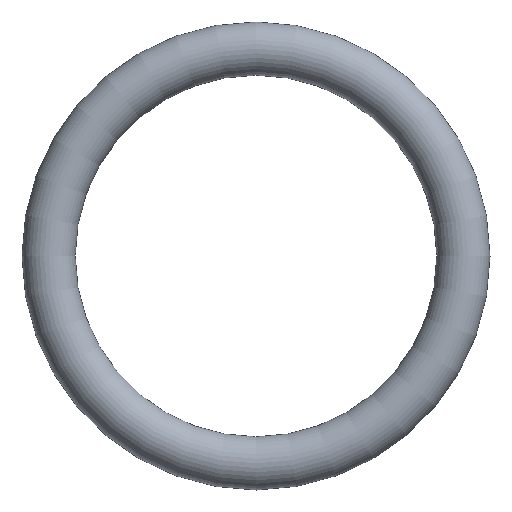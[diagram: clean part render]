
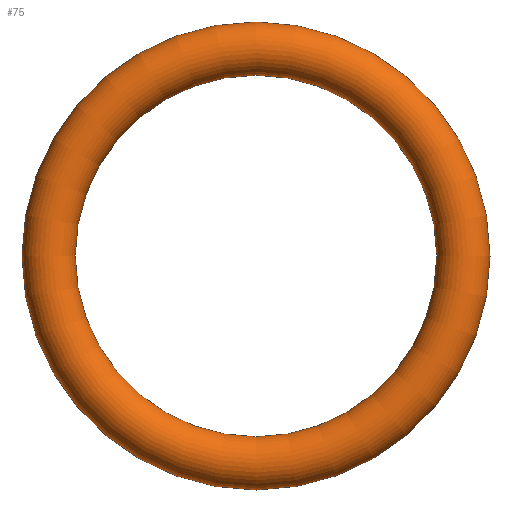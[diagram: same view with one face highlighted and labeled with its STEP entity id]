
A CAD part, front view. The second image highlights one B-rep face of the part: STEP entity #75.
In plain terms, the highlighted toroidal (fillet/blend) face has major radius 9.35 mm and minor radius 1.2 mm.
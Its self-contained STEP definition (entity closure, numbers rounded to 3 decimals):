
#75 = ADVANCED_FACE( '', ( #77 ), #78, .T. );
#77 = FACE_BOUND( '', #79, .T. );
#78 = TOROIDAL_SURFACE( '', #80, 9.35, 1.2 );
#79 = VERTEX_LOOP( '', #81 );
#80 = AXIS2_PLACEMENT_3D( '', #82, #83, #84 );
#81 = VERTEX_POINT( '', #85 );
#82 = CARTESIAN_POINT( '', ( 0., 0., 0. ) );
#83 = DIRECTION( '', ( 0., -1., 0. ) );
#84 = DIRECTION( '', ( 0., 0., -1. ) );
#85 = CARTESIAN_POINT( '', ( 0., 0., -10.55 ) );
